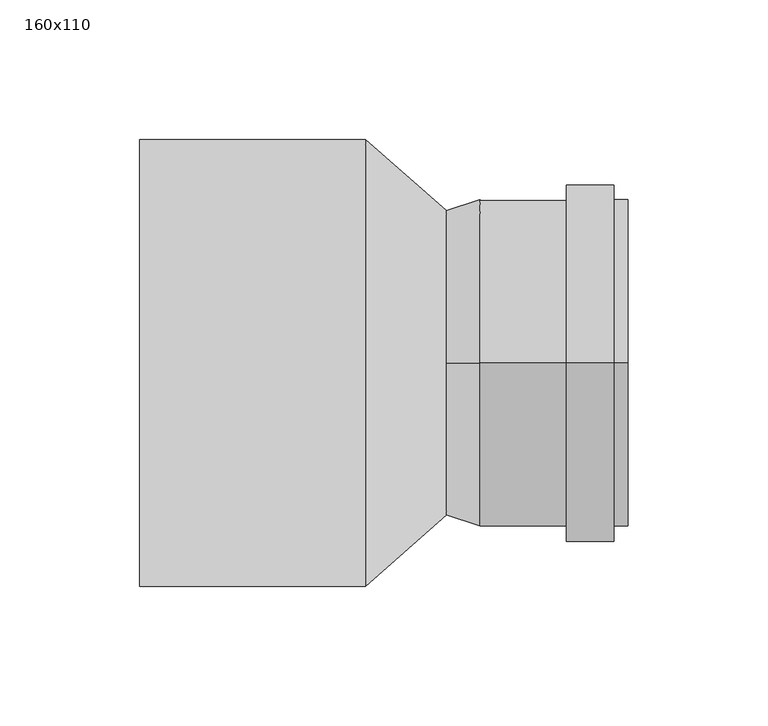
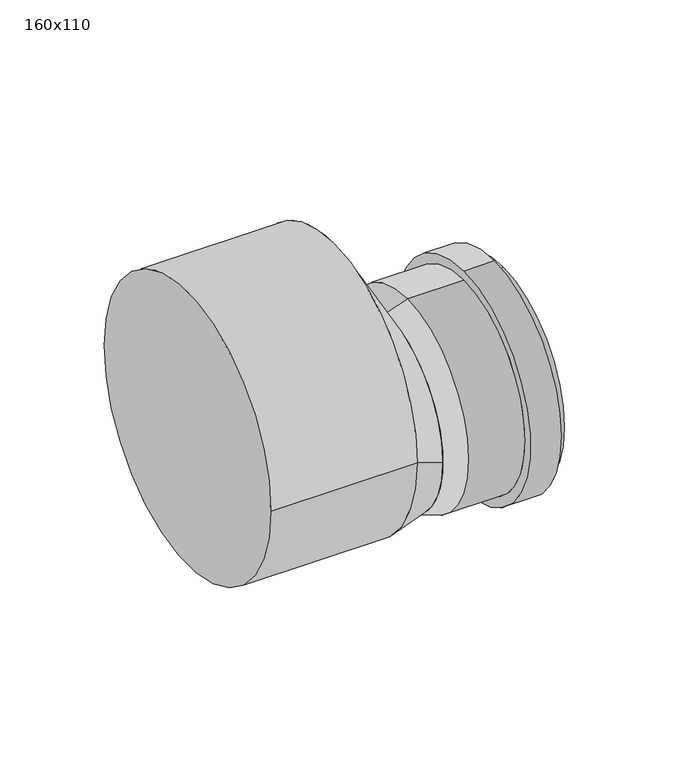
"""IFC4 building model written with IfcOpenShell, lengths in millimetres: pipe fitting geometry, Pipelife - PVC-U - Redukcja kanalizacyjna_studnia : 160x110."""

from ifc_helpers import new_model, si_unit, point, frame, origin, origin_2d, place, context, project, spatial, polyline, circle_curve, trimmed, segment, composite_curve, outline, extrude, source, transform, mapped, element, save
from ifc_brep_helpers import plane_surface, cylinder_surface, revolved_surface, spline_surface, advanced_brep


def pipe_fitting_160x110_c4fcdbd0(model_context):
    return source(origin(), model_context, "Body", "SolidModel", [
        extrude(outline(composite_curve([segment(trimmed(circle_curve(origin_2d(), 80.0), [point((80.0, 0.0))], [point((-80.0, 0.0))], False, "CARTESIAN"), True, "CONTINUOUS"), segment(trimmed(circle_curve(origin_2d(), 80.0), [point((-80.0, 0.0))], [point((80.0, 0.0))], False, "CARTESIAN"), True, "CONTINUOUS")], self_intersect=False)), frame((-95.5, 0.0, 0.0), z_axis=(1.0, 0.0, 0.0), x_axis=(0.0, 1.0, 0.0)), (0.0, 0.0, 1.0), 81.0),
        advanced_brep(
        [(79.5, 0.0, -84.0), (79.5, 0.0, 33.0), (79.5, 0.0, -81.0), (79.5, 0.0, 30.0), (74.5, 0.0, 33.0), (74.5, 0.0, -84.0), (26.5, 0.0, -84.0), (57.5, 0.0, -84.0), (57.5, 0.0, 33.0), (26.5, 0.0, 33.0), (26.5, 0.0, 30.0), (26.5, 0.0, -81.0), (57.5, 0.0, -89.5), (57.5, 0.0, 38.5), (74.5, 0.0, -89.5), (74.5, 0.0, 38.5), (14.5, 0.0, -80.0), (14.5, 0.0, 29.0)],
        [
            (0, 1, circle_curve(frame((79.5, 0.0, -25.5), z_axis=(1.0, 0.0, 0.0), x_axis=(0.0, 0.0, 1.0)), 58.5)),
            (1, 0, circle_curve(frame((79.5, 0.0, -25.5), z_axis=(1.0, 0.0, 0.0), x_axis=(0.0, 0.0, 1.0)), 58.5)),
            (2, 3, circle_curve(frame((79.5, 0.0, -25.5), z_axis=(-1.0, 0.0, 0.0), x_axis=(0.0, 0.0, 1.0)), 55.5)),
            (3, 2, circle_curve(frame((79.5, 0.0, -25.5), z_axis=(-1.0, 0.0, 0.0), x_axis=(0.0, 0.0, 1.0)), 55.5)),
            (1, 4),
            (4, 5, circle_curve(frame((74.5, 0.0, -25.5), z_axis=(1.0, 0.0, 0.0), x_axis=(0.0, 0.0, 1.0)), 58.5)),
            (5, 0),
            (6, 7),
            (7, 8, circle_curve(frame((57.5, 0.0, -25.5), z_axis=(-1.0, 0.0, 0.0), x_axis=(0.0, 0.0, 1.0)), 58.5)),
            (8, 9),
            (9, 6, circle_curve(frame((26.5, 0.0, -25.5), z_axis=(1.0, 0.0, 0.0), x_axis=(0.0, 0.0, 1.0)), 58.5)),
            (5, 4, circle_curve(frame((74.5, 0.0, -25.5), z_axis=(1.0, 0.0, 0.0), x_axis=(0.0, 0.0, 1.0)), 58.5)),
            (6, 9, circle_curve(frame((26.5, 0.0, -25.5), z_axis=(1.0, 0.0, 0.0), x_axis=(0.0, 0.0, 1.0)), 58.5)),
            (8, 7, circle_curve(frame((57.5, 0.0, -25.5), z_axis=(-1.0, 0.0, 0.0), x_axis=(0.0, 0.0, 1.0)), 58.5)),
            (10, 3),
            (2, 11),
            (11, 10, circle_curve(frame((26.5, 0.0, -25.5), z_axis=(-1.0, 0.0, 0.0), x_axis=(0.0, 0.0, 1.0)), 55.5)),
            (10, 11, circle_curve(frame((26.5, 0.0, -25.5), z_axis=(-1.0, 0.0, 0.0), x_axis=(0.0, 0.0, 1.0)), 55.5)),
            (12, 13, circle_curve(frame((57.5, 0.0, -25.5), z_axis=(-1.0, 0.0, 0.0), x_axis=(0.0, 0.0, 1.0)), 64.0)),
            (13, 12, circle_curve(frame((57.5, 0.0, -25.5), z_axis=(-1.0, 0.0, 0.0), x_axis=(0.0, 0.0, 1.0)), 64.0)),
            (14, 15, circle_curve(frame((74.5, 0.0, -25.5), z_axis=(1.0, 0.0, 0.0), x_axis=(0.0, 0.0, 1.0)), 64.0)),
            (15, 14, circle_curve(frame((74.5, 0.0, -25.5), z_axis=(1.0, 0.0, 0.0), x_axis=(0.0, 0.0, 1.0)), 64.0)),
            (12, 14),
            (15, 13),
            (16, 17, circle_curve(frame((14.5, 0.0, -25.5), z_axis=(-1.0, 0.0, 0.0), x_axis=(0.0, 0.0, 1.0)), 54.5)),
            (17, 16, circle_curve(frame((14.5, 0.0, -25.5), z_axis=(-1.0, 0.0, 0.0), x_axis=(0.0, 0.0, -1.0)), 54.5)),
            (17, 9),
            (6, 16),
        ],
        [
            plane_surface(frame((79.5, 0.0, -25.5), z_axis=(1.0, 0.0, 0.0), x_axis=(0.0, -1.0, 0.0))),
            cylinder_surface(frame((26.5, 0.0, -25.5), z_axis=(-1.0, 0.0, 0.0), x_axis=(0.0, 0.0, 1.0)), 58.5),
            revolved_surface(polyline([(26.5, 0.0, 30.0), (79.5, 0.0, 30.0)]), (26.5, 0.0, -25.5), (-1.0, 0.0, 0.0)),
            plane_surface(frame((57.5, 0.0, -25.5), z_axis=(-1.0, 0.0, 0.0), x_axis=(0.0, -1.0, 0.0))),
            plane_surface(frame((74.5, 0.0, -25.5), z_axis=(1.0, 0.0, 0.0), x_axis=(0.0, -1.0, 0.0))),
            cylinder_surface(frame((57.5, 0.0, -25.5), z_axis=(-1.0, 0.0, 0.0), x_axis=(0.0, 0.0, 1.0)), 64.0),
            plane_surface(frame((26.5, 0.0, -25.5), z_axis=(1.0, 0.0, 0.0), x_axis=(0.0, 1.0, 0.0))),
            plane_surface(frame((14.5, 0.0, -25.5), z_axis=(-1.0, 0.0, 0.0), x_axis=(0.0, 1.0, 0.0))),
            revolved_surface(polyline([(14.5, 0.0, 29.0), (26.5, 0.0, 33.0)]), (-149.0, 0.0, -25.5), (1.0, 0.0, 0.0)),
            revolved_surface(polyline([(14.5, 0.0, -80.0), (26.5, 0.0, -84.0)]), (-149.0, 0.0, -25.5), (1.0, 0.0, 0.0)),
        ],
        [
            (0, [[1, 2], [3, 4]]),
            (1, [[-2, 5, 6, 7]]),
            (1, [[8, 9, 10, 11]]),
            (1, [[-1, -7, 12, -5]]),
            (1, [[-8, 13, -10, 14]]),
            (2, [[15, -3, 16, 17]]),
            (2, [[-15, 18, -16, -4]]),
            (3, [[19, 20], [-9, -14]]),
            (4, [[21, 22], [-6, -12]]),
            (5, [[-19, 23, -22, 24]]),
            (5, [[-20, -24, -21, -23]]),
            (6, [[-17, -18]]),
            (7, [[25, 26]]),
            (8, [[-26, 27, -13, 28]]),
            (9, [[-25, -28, -11, -27]]),
        ],
    ),
        advanced_brep(
        [(14.5, -54.5, -25.5), (14.5, 54.5, -25.5), (-14.5, -80.0, 0.0), (-14.5, 80.0, 0.0)],
        [
            (0, 1, circle_curve(frame((14.5, 0.0, -25.5), z_axis=(1.0, 0.0, 0.0), x_axis=(0.0, 1.0, 0.0)), 54.5)),
            (1, 0, circle_curve(frame((14.5, 0.0, -25.5), z_axis=(1.0, 0.0, 0.0), x_axis=(0.0, 1.0, 0.0)), 54.5)),
            (2, 3, circle_curve(frame((-14.5, 0.0, 0.0), z_axis=(-1.0, 0.0, 0.0), x_axis=(0.0, 1.0, 0.0)), 80.0)),
            (3, 2, circle_curve(frame((-14.5, 0.0, 0.0), z_axis=(-1.0, 0.0, 0.0), x_axis=(0.0, 1.0, 0.0)), 80.0)),
            (3, 1),
            (0, 2),
        ],
        [
            plane_surface(frame((14.5, 0.0, -25.5), z_axis=(1.0, 0.0, 0.0), x_axis=(0.0, 0.0, -1.0))),
            plane_surface(frame((-14.5, 0.0, 0.0), z_axis=(-1.0, 0.0, 0.0), x_axis=(0.0, 0.0, -1.0))),
            spline_surface(2, 1, [[(-14.5, -80.0, 0.0), (14.5, -54.5, -25.5)], [(-14.5, -80.0, -80.0), (14.5, -54.5, -80.0)], [(-14.5, 0.0, -80.0), (14.5, 0.0, -80.0)], [(-14.5, 80.0, -80.0), (14.5, 54.5, -80.0)], [(-14.5, 80.0, 0.0), (14.5, 54.5, -25.5)]], [3, 2, 3], [2, 2], [0.0, 1.0, 2.0], [0.0, 1.0], weights=[[1.0, 1.0], [0.7071067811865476, 0.7071067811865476], [1.0, 1.0], [0.7071067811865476, 0.7071067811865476], [1.0, 1.0]]),
            spline_surface(2, 1, [[(-14.5, 80.0, 0.0), (14.5, 54.5, -25.5)], [(-14.5, 80.0, 80.0), (14.5, 54.5, 29.0)], [(-14.5, 0.0, 80.0), (14.5, 0.0, 29.0)], [(-14.5, -80.0, 80.0), (14.5, -54.5, 29.0)], [(-14.5, -80.0, 0.0), (14.5, -54.5, -25.5)]], [3, 2, 3], [2, 2], [0.0, 1.0, 2.0], [0.0, 1.0], weights=[[1.0, 1.0], [0.7071067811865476, 0.7071067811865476], [1.0, 1.0], [0.7071067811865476, 0.7071067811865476], [1.0, 1.0]]),
        ],
        [
            (0, [[1, 2]]),
            (1, [[3, 4]]),
            (2, [[-4, 5, -1, 6]]),
            (3, [[-3, -6, -2, -5]]),
        ],
    ),
    ])


if __name__ == "__main__":
    model = new_model("IFC4")
    model_context = context("Model", 3, world=origin())
    ifc_project = project(units=[si_unit("LENGTHUNIT", "METRE", prefix="MILLI")], contexts=[model_context])
    site = spatial("IfcSite", under=ifc_project)
    building = spatial("IfcBuilding", under=site)
    placement = place(None, origin())
    pipe_fitting_160x110_shape = pipe_fitting_160x110_c4fcdbd0(model_context)
    element("IfcPipeFitting", 1, ObjectType="Pipelife - PVC-U - Redukcja kanalizacyjna_studnia : 160x110", at=placement, inside=building, context=model_context, shape_type="MappedRepresentation", body=[
        mapped(pipe_fitting_160x110_shape, transform((0.0, 0.0, 0.0), x_axis=(1.0, 0.0, 0.0), y_axis=(0.0, 1.0, 0.0), z_axis=(0.0, 0.0, 1.0))),
    ])
    save(model, "model.ifc")
